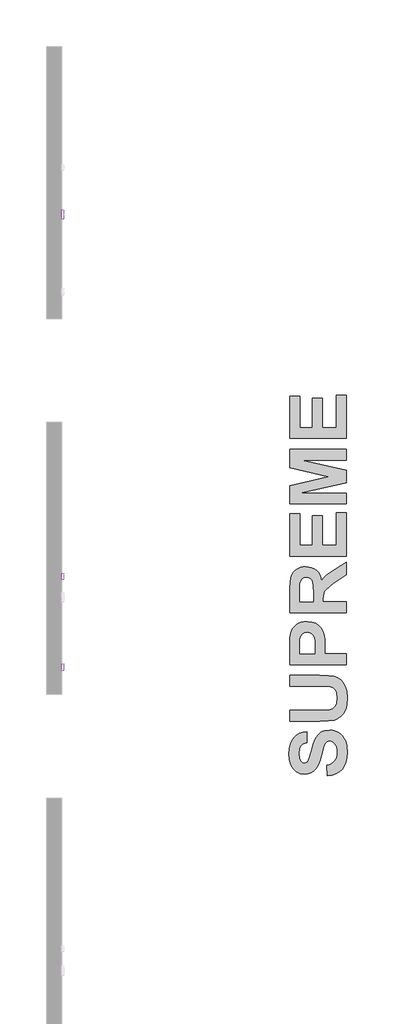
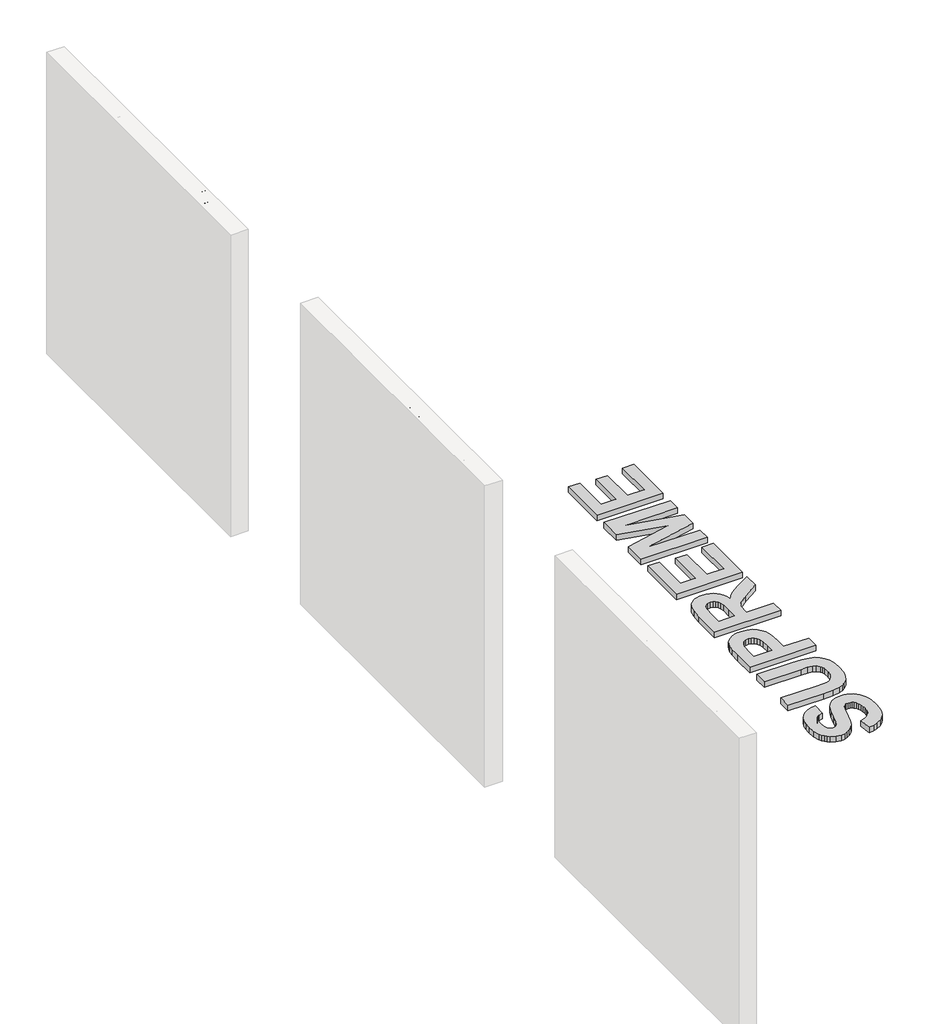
# One storey, part 15 of 17: 4 proxies.
"""IFC4 building model written with IfcOpenShell, lengths in millimetres."""

from ifc_helpers import new_model, si_unit, frame, origin, origin_with_axes, place, context, project, spatial, polyline, outline, extrude, element, save

model = new_model("IFC4")

# Units and contexts
model_context = context("Model", 3, world=origin())
ifc_project = project(units=[si_unit("LENGTHUNIT", "METRE", prefix="MILLI")], contexts=[model_context])

# Site, building, storey
site = spatial("IfcSite", under=ifc_project)
building = spatial("IfcBuilding", under=site)
storey = spatial("IfcBuildingStorey", under=building, Name="PORTOBELLO - SHOWROOM", Elevation=0.0)

# Proxies
placement = place(None, origin())
element("IfcBuildingElementProxy", 1, Name="10mm Arial", ObjectType="10mm Arial", at=placement, inside=storey, context=model_context, shape_type="SweptSolid", body=[
    extrude(outline(polyline([(13150.0729325, 2518.4745677), (13150.0729325, 2618.9308778), (13171.6062919, 2618.9308778), (13192.2076837, 2548.1258565), (13196.3770129, 2533.3370003), (13200.8651733, 2549.3521298), (13221.0741576, 2618.9308778), (13242.6810934, 2618.9308778), (13242.6810934, 2518.4745677), (13230.1240546, 2518.4745677), (13230.1240546, 2606.373839), (13204.8873498, 2518.4745677), (13187.8912016, 2518.4745677), (13162.6299713, 2606.373839), (13162.6299713, 2518.4745677), (13150.0729325, 2518.4745677)])), frame((-7622.2794626, 0.0, 0.0), z_axis=(1.0, 0.0, 0.0), x_axis=(0.0, 1.0, 0.0)), (0.0, 0.0, 1.0), 20.0),
    extrude(outline(polyline([(13259.9470217, 2555.360869), (13262.6632171, 2573.1479635), (13270.8118033, 2585.64982), (13280.8795072, 2591.7750552), (13292.9337739, 2593.8168003), (13306.1254092, 2591.3305311), (13316.6621626, 2583.8717237), (13323.5691471, 2572.0289891), (13325.8714752, 2556.3909386), (13321.8002478, 2534.0482388), (13309.9421849, 2521.4053609), (13292.9337739, 2516.9049378), (13279.5827232, 2519.3820099), (13269.0582325, 2526.8132262), (13262.2248244, 2538.9042811), (13259.9470217, 2555.360869)]), holes=[polyline([(13272.5040605, 2555.3853945), (13273.9571944, 2544.0209065), (13278.316596, 2535.924437), (13284.8771582, 2531.0775917), (13292.9337739, 2529.4619766), (13300.9536014, 2531.0867887), (13307.501901, 2535.9612252), (13311.8613026, 2544.1649937), (13313.3144365, 2555.777802), (13311.8521055, 2566.8111961), (13307.4651128, 2574.7973011), (13300.9076162, 2579.6441464), (13292.9337739, 2581.2597615), (13284.8771582, 2579.6502778), (13278.316596, 2574.8218266), (13273.9571944, 2566.7437511), (13272.5040605, 2555.3853945)])]), frame((-7622.2794626, 0.0, 0.0), z_axis=(1.0, 0.0, 0.0), x_axis=(0.0, 1.0, 0.0)), (0.0, 0.0, 1.0), 20.0),
    extrude(outline(polyline([(13387.0870392, 2518.4745677), (13387.0870392, 2531.1542338), (13377.2523272, 2520.4672618), (13364.4255083, 2516.9049378), (13352.6164963, 2519.4065354), (13344.4740415, 2525.6850548), (13340.7339079, 2534.9311556), (13339.9981439, 2546.6052776), (13339.9981439, 2592.2471704), (13352.5551826, 2592.2471704), (13352.5551826, 2552.515915), (13353.3154721, 2539.7136215), (13358.281879, 2532.1965661), (13367.6383444, 2529.4619766), (13378.1229813, 2532.2578797), (13385.0514255, 2539.873037), (13387.0870392, 2553.8648156), (13387.0870392, 2592.2471704), (13399.644078, 2592.2471704), (13399.644078, 2518.4745677), (13387.0870392, 2518.4745677)])), frame((-7622.2794626, 0.0, 0.0), z_axis=(1.0, 0.0, 0.0), x_axis=(0.0, 1.0, 0.0)), (0.0, 0.0, 1.0), 20.0),
    extrude(outline(polyline([(13412.2011168, 2540.4493855), (13424.7581555, 2542.0190154), (13430.5706911, 2532.6993381), (13443.8880193, 2529.4619766), (13456.6903127, 2532.429558), (13460.859642, 2539.3947905), (13456.6657873, 2545.0356477), (13443.7408665, 2548.6163658), (13424.8317319, 2554.7599951), (13416.5789125, 2561.933694), (13413.7707466, 2572.0627116), (13416.0270895, 2581.419177), (13422.1829816, 2588.5683505), (13430.1660209, 2592.2839586), (13440.9694888, 2593.8168003), (13456.2488543, 2591.3519909), (13465.960939, 2584.6810641), (13470.2774211, 2573.4116123), (13457.7203823, 2571.8419824), (13452.99923, 2578.7704267), (13441.9505075, 2581.2597615), (13429.9330289, 2578.8807913), (13426.3277854, 2573.3380359), (13427.8238388, 2569.6837414), (13432.5082029, 2566.9123637), (13443.3239336, 2564.2390879), (13461.7548215, 2558.3284505), (13470.3142093, 2551.6329982), (13473.4166808, 2540.7191656), (13469.774649, 2528.7016871), (13459.2654867, 2519.9828838), (13443.716341, 2516.9049378), (13431.055069, 2518.3887285), (13421.8150996, 2522.8401007), (13415.6469448, 2530.2100033), (13412.2011168, 2540.4493855)])), frame((-7622.2794626, 0.0, 0.0), z_axis=(1.0, 0.0, 0.0), x_axis=(0.0, 1.0, 0.0)), (0.0, 0.0, 1.0), 20.0),
    extrude(outline(polyline([(13482.8344599, 2540.4493855), (13495.3914986, 2542.0190154), (13501.2040341, 2532.6993381), (13514.5213624, 2529.4619766), (13527.3236558, 2532.429558), (13531.4929851, 2539.3947905), (13527.2991303, 2545.0356477), (13514.3742096, 2548.6163658), (13495.465075, 2554.7599951), (13487.2122556, 2561.933694), (13484.4040897, 2572.0627116), (13486.6604326, 2581.419177), (13492.8163247, 2588.5683505), (13500.799364, 2592.2839586), (13511.6028319, 2593.8168003), (13526.8821974, 2591.3519909), (13536.5942821, 2584.6810641), (13540.9107642, 2573.4116123), (13528.3537254, 2571.8419824), (13523.6325731, 2578.7704267), (13512.5838505, 2581.2597615), (13500.566372, 2578.8807913), (13496.9611285, 2573.3380359), (13498.4571819, 2569.6837414), (13503.141546, 2566.9123637), (13513.9572766, 2564.2390879), (13532.3881646, 2558.3284505), (13540.9475524, 2551.6329982), (13544.0500239, 2540.7191656), (13540.4079921, 2528.7016871), (13529.8988298, 2519.9828838), (13514.3496841, 2516.9049378), (13501.6884121, 2518.3887285), (13492.4484427, 2522.8401007), (13486.2802879, 2530.2100033), (13482.8344599, 2540.4493855)])), frame((-7622.2794626, 0.0, 0.0), z_axis=(1.0, 0.0, 0.0), x_axis=(0.0, 1.0, 0.0)), (0.0, 0.0, 1.0), 20.0),
    extrude(outline(polyline([(13609.8273246, 2540.4493855), (13622.1391087, 2538.8797557), (13617.703065, 2529.602998), (13610.6244022, 2522.6684224), (13601.0625361, 2518.345809), (13589.1768819, 2516.9049378), (13574.443208, 2519.391207), (13563.1063112, 2526.8500144), (13555.87743, 2538.7969822), (13553.4678029, 2554.7477324), (13555.9019555, 2571.2349771), (13563.2044131, 2583.5651553), (13574.3880257, 2591.253889), (13588.4656434, 2593.8168003), (13602.1048684, 2591.2600204), (13613.0033725, 2583.5896808), (13620.1494802, 2571.2840281), (13622.5315162, 2554.8213088), (13622.4579398, 2551.4367944), (13566.0248417, 2551.4367944), (13568.1984112, 2542.0374095), (13573.2475915, 2535.1273593), (13580.5347207, 2530.8783223), (13589.4221366, 2529.4619766), (13601.7339207, 2532.0862015), (13609.8273246, 2540.4493855)]), holes=[polyline([(13566.0248417, 2563.9938332), (13609.9744774, 2563.9938332), (13604.9467568, 2575.3736496), (13597.6259051, 2579.7882335), (13588.4165925, 2581.2597615), (13572.9532859, 2576.5631347), (13568.0880466, 2571.0724959), (13566.0248417, 2563.9938332)])]), frame((-7622.2794626, 0.0, 0.0), z_axis=(1.0, 0.0, 0.0), x_axis=(0.0, 1.0, 0.0)), (0.0, 0.0, 1.0), 20.0),
    extrude(outline(polyline([(13671.1900414, 2553.0064243), (13683.7470802, 2553.0064243), (13687.7937821, 2540.4371228), (13697.677545, 2532.4908717), (13712.7361814, 2529.4619766), (13725.8573059, 2531.7551077), (13734.3308545, 2538.0581525), (13737.1144949, 2546.4826502), (13735.0298303, 2554.3185367), (13726.494968, 2560.0207077), (13708.2112328, 2564.8154363), (13688.5295461, 2571.0081166), (13677.8487055, 2580.3523193), (13674.3293011, 2592.8357816), (13678.6825714, 2607.0482894), (13691.3990257, 2617.0792051), (13710.0138546, 2620.5005077), (13729.8794823, 2616.9197896), (13743.1232342, 2606.3983645), (13748.1019038, 2590.6775406), (13735.5448651, 2590.6775406), (13733.2394712, 2598.1700706), (13728.4324798, 2603.5779359), (13710.5043639, 2607.9434689), (13692.5271971, 2603.6269868), (13686.8863398, 2593.2036636), (13690.8839909, 2584.4971231), (13711.3872807, 2577.4828397), (13733.6073532, 2571.1797948), (13745.7597218, 2561.0017263), (13749.6715337, 2546.8014813), (13745.1711106, 2531.7796332), (13732.2216644, 2520.8167497), (13713.2266907, 2516.9049378), (13690.7981517, 2521.123318), (13676.6101694, 2533.8275096), (13671.1900414, 2553.0064243)])), frame((-7622.2794626, 0.0, 0.0), z_axis=(1.0, 0.0, 0.0), x_axis=(0.0, 1.0, 0.0)), (0.0, 0.0, 1.0), 20.0),
    extrude(outline(polyline([(13814.0263574, 2518.4745677), (13814.0263574, 2531.1542338), (13804.1916454, 2520.4672618), (13791.3648265, 2516.9049378), (13779.5558144, 2519.4065354), (13771.4133596, 2525.6850548), (13767.673226, 2534.9311556), (13766.937462, 2546.6052776), (13766.937462, 2592.2471704), (13779.4945008, 2592.2471704), (13779.4945008, 2552.515915), (13780.2547902, 2539.7136215), (13785.2211972, 2532.1965661), (13794.5776626, 2529.4619766), (13805.0622994, 2532.2578797), (13811.9907437, 2539.873037), (13814.0263574, 2553.8648156), (13814.0263574, 2592.2471704), (13826.5833961, 2592.2471704), (13826.5833961, 2518.4745677), (13814.0263574, 2518.4745677)])), frame((-7622.2794626, 0.0, 0.0), z_axis=(1.0, 0.0, 0.0), x_axis=(0.0, 1.0, 0.0)), (0.0, 0.0, 1.0), 20.0),
    extrude(outline(polyline([(13843.8493245, 2490.2212304), (13843.8493245, 2592.2471704), (13856.4063632, 2592.2471704), (13856.4063632, 2579.9353863), (13865.0883783, 2590.3464468), (13876.8115512, 2593.8168003), (13892.7285789, 2588.9607579), (13903.1273766, 2575.2755477), (13906.6345183, 2555.9249548), (13902.6736555, 2535.5810804), (13891.1712118, 2521.724192), (13875.2909723, 2516.9049378), (13864.3648771, 2520.1300366), (13856.4063632, 2528.2847542), (13856.4063632, 2490.2212304), (13843.8493245, 2490.2212304)]), holes=[polyline([(13856.4063632, 2554.7722579), (13857.7644609, 2543.5150688), (13861.838754, 2535.6423941), (13867.850559, 2531.007081), (13875.0211922, 2529.4619766), (13882.3083214, 2531.0622633), (13888.4734105, 2535.8631233), (13892.6764623, 2544.0239722), (13894.0774795, 2555.7042256), (13892.7101848, 2566.900101), (13888.6083005, 2574.8831403), (13882.6056926, 2579.6656062), (13875.536227, 2581.2597615), (13868.4391701, 2579.5644386), (13862.206636, 2574.4784701), (13857.8564314, 2566.1612713), (13856.4063632, 2554.7722579)])]), frame((-7622.2794626, 0.0, 0.0), z_axis=(1.0, 0.0, 0.0), x_axis=(0.0, 1.0, 0.0)), (0.0, 0.0, 1.0), 20.0),
    extrude(outline(polyline([(13920.7611869, 2518.4745677), (13920.7611869, 2592.2471704), (13931.7485958, 2592.2471704), (13931.7485958, 2581.3333379), (13939.5476941, 2591.3887791), (13947.3958434, 2593.8168003), (13960.0019331, 2589.9417766), (13955.8080783, 2578.6845875), (13946.9789104, 2581.2597615), (13939.8787879, 2578.7826894), (13935.3538394, 2571.9155588), (13933.3182257, 2557.24933), (13933.3182257, 2518.4745677), (13920.7611869, 2518.4745677)])), frame((-7622.2794626, 0.0, 0.0), z_axis=(1.0, 0.0, 0.0), x_axis=(0.0, 1.0, 0.0)), (0.0, 0.0, 1.0), 20.0),
    extrude(outline(polyline([(14019.5007144, 2540.4493855), (14031.8124985, 2538.8797557), (14027.3764548, 2529.602998), (14020.2977921, 2522.6684224), (14010.7359259, 2518.345809), (13998.8502718, 2516.9049378), (13984.1165978, 2519.391207), (13972.779701, 2526.8500144), (13965.5508198, 2538.7969822), (13963.1411928, 2554.7477324), (13965.5753453, 2571.2349771), (13972.8778029, 2583.5651553), (13984.0614155, 2591.253889), (13998.1390332, 2593.8168003), (14011.7782582, 2591.2600204), (14022.6767623, 2583.5896808), (14029.8228701, 2571.2840281), (14032.204906, 2554.8213088), (14032.1313296, 2551.4367944), (13975.6982315, 2551.4367944), (13977.871801, 2542.0374095), (13982.9209814, 2535.1273593), (13990.2081106, 2530.8783223), (13999.0955264, 2529.4619766), (14011.4073105, 2532.0862015), (14019.5007144, 2540.4493855)]), holes=[polyline([(13975.6982315, 2563.9938332), (14019.6478672, 2563.9938332), (14014.6201466, 2575.3736496), (14007.2992949, 2579.7882335), (13998.0899823, 2581.2597615), (13982.6266758, 2576.5631347), (13977.7614364, 2571.0724959), (13975.6982315, 2563.9938332)])]), frame((-7622.2794626, 0.0, 0.0), z_axis=(1.0, 0.0, 0.0), x_axis=(0.0, 1.0, 0.0)), (0.0, 0.0, 1.0), 20.0),
    extrude(outline(polyline([(14044.7619448, 2518.4745677), (14044.7619448, 2592.2471704), (14057.3189835, 2592.2471704), (14057.3189835, 2580.1070646), (14065.9519477, 2590.0521412), (14078.2392063, 2593.8168003), (14090.8207705, 2589.9785648), (14097.7369521, 2579.2241478), (14107.5348759, 2590.1686372), (14119.9079736, 2593.8168003), (14129.3472125, 2592.299287), (14136.3277734, 2587.7467474), (14140.6411897, 2580.0365539), (14142.0789952, 2569.0460793), (14142.0789952, 2518.4745677), (14129.5219564, 2518.4745677), (14129.5219564, 2563.6504767), (14128.3569968, 2574.1351135), (14124.1386166, 2579.2977242), (14116.9649177, 2581.2597615), (14104.6163454, 2576.2320409), (14100.9283284, 2569.6898728), (14099.6989894, 2560.1188095), (14099.6989894, 2518.4745677), (14087.1419506, 2518.4745677), (14087.1419506, 2565.0484283), (14084.2356828, 2577.2130596), (14074.7075392, 2581.2597615), (14065.4123874, 2578.5619602), (14059.2319699, 2570.66476), (14057.3189835, 2555.6797001), (14057.3189835, 2518.4745677), (14044.7619448, 2518.4745677)])), frame((-7622.2794626, 0.0, 0.0), z_axis=(1.0, 0.0, 0.0), x_axis=(0.0, 1.0, 0.0)), (0.0, 0.0, 1.0), 20.0),
    extrude(outline(polyline([(14212.5651855, 2540.4493855), (14224.8769696, 2538.8797557), (14220.4409259, 2529.602998), (14213.3622631, 2522.6684224), (14203.800397, 2518.345809), (14191.9147428, 2516.9049378), (14177.1810689, 2519.391207), (14165.8441721, 2526.8500144), (14158.6152909, 2538.7969822), (14156.2056638, 2554.7477324), (14158.6398164, 2571.2349771), (14165.942274, 2583.5651553), (14177.1258866, 2591.253889), (14191.2035043, 2593.8168003), (14204.8427293, 2591.2600204), (14215.7412334, 2583.5896808), (14222.8873411, 2571.2840281), (14225.2693771, 2554.8213088), (14225.1958007, 2551.4367944), (14168.7627026, 2551.4367944), (14170.936272, 2542.0374095), (14175.9854524, 2535.1273593), (14183.2725816, 2530.8783223), (14192.1599975, 2529.4619766), (14204.4717816, 2532.0862015), (14212.5651855, 2540.4493855)]), holes=[polyline([(14168.7627026, 2563.9938332), (14212.7123383, 2563.9938332), (14207.6846177, 2575.3736496), (14200.363766, 2579.7882335), (14191.1544534, 2581.2597615), (14175.6911468, 2576.5631347), (14170.8259075, 2571.0724959), (14168.7627026, 2563.9938332)])]), frame((-7622.2794626, 0.0, 0.0), z_axis=(1.0, 0.0, 0.0), x_axis=(0.0, 1.0, 0.0)), (0.0, 0.0, 1.0), 20.0),
    extrude(outline(polyline([(14278.6367918, 2518.4745677), (14278.6367918, 2618.9308778), (14300.1701513, 2618.9308778), (14320.771543, 2548.1258565), (14324.9408723, 2533.3370003), (14329.4290326, 2549.3521298), (14349.6380169, 2618.9308778), (14371.2449527, 2618.9308778), (14371.2449527, 2518.4745677), (14358.687914, 2518.4745677), (14358.687914, 2606.373839), (14333.4512091, 2518.4745677), (14316.4550609, 2518.4745677), (14291.1938306, 2606.373839), (14291.1938306, 2518.4745677), (14278.6367918, 2518.4745677)])), frame((-7622.2794626, 0.0, 0.0), z_axis=(1.0, 0.0, 0.0), x_axis=(0.0, 1.0, 0.0)), (0.0, 0.0, 1.0), 20.0),
    extrude(outline(polyline([(-7602.2794626, 14404.2071795), (-7602.2794626, 14391.6501407), (-7622.2794626, 14391.6501407), (-7622.2794626, 14404.2071795), (-7602.2794626, 14404.2071795)])), frame((0.0, 0.0, 2606.373839), z_axis=(0.0, 0.0, 1.0), x_axis=(1.0, 0.0, 0.0)), (0.0, 0.0, 1.0), 12.5570388),
    extrude(outline(polyline([(-7602.2794626, 14404.2071795), (-7602.2794626, 14391.6501407), (-7622.2794626, 14391.6501407), (-7622.2794626, 14404.2071795), (-7602.2794626, 14404.2071795)])), frame((0.0, 0.0, 2518.4745677), z_axis=(0.0, 0.0, 1.0), x_axis=(1.0, 0.0, 0.0)), (0.0, 0.0, 1.0), 73.7726028),
    extrude(outline(polyline([(14415.1945884, 2518.4745677), (14442.0254486, 2555.5815982), (14416.7642183, 2592.2471704), (14431.8228546, 2592.2471704), (14444.0120114, 2574.5643092), (14449.726445, 2566.2501761), (14454.6805892, 2573.0682557), (14468.5620032, 2592.2471704), (14483.6696905, 2592.2471704), (14457.1331359, 2555.5570728), (14482.6886718, 2518.4745677), (14467.60551, 2518.4745677), (14452.2035171, 2540.792742), (14449.407614, 2544.8884949), (14430.3022757, 2518.4745677), (14415.1945884, 2518.4745677)])), frame((-7622.2794626, 0.0, 0.0), z_axis=(1.0, 0.0, 0.0), x_axis=(0.0, 1.0, 0.0)), (0.0, 0.0, 1.0), 20.0),
])
element("IfcBuildingElementProxy", 2, Name="10mm Arial", ObjectType="10mm Arial", at=placement, inside=storey, context=model_context, shape_type="SweptSolid", body=[
    extrude(outline(polyline([(9462.4529383, 2393.4745677), (9449.8958996, 2393.4745677), (9449.8958996, 2471.7598562), (9438.0010484, 2463.2863076), (9424.781822, 2456.9464746), (9424.781822, 2468.8168003), (9443.1881845, 2480.5644987), (9454.3595344, 2493.9308778), (9462.4529383, 2493.9308778), (9462.4529383, 2393.4745677)])), frame((-7622.2794626, 0.0, 0.0), z_axis=(1.0, 0.0, 0.0), x_axis=(0.0, 1.0, 0.0)), (0.0, 0.0, 1.0), 20.0),
    extrude(outline(polyline([(9492.2759054, 2442.8933823), (9495.9669881, 2471.7966444), (9506.9298715, 2488.4616988), (9525.2381322, 2493.9308778), (9539.904361, 2490.6935163), (9550.0333786, 2481.3615763), (9555.9194906, 2466.4991437), (9558.2003589, 2442.8933823), (9554.5460645, 2414.1127476), (9543.6199692, 2397.410905), (9535.3886096, 2393.2814296), (9525.2381322, 2391.9049378), (9512.1905841, 2394.2961708), (9502.2822957, 2401.4698697), (9494.777503, 2418.4598865), (9492.2759054, 2442.8933823)]), holes=[polyline([(9504.8329442, 2442.9179078), (9506.3044722, 2423.1657104), (9510.7190561, 2411.7337774), (9517.2918811, 2406.2799268), (9525.2381322, 2404.4619766), (9533.1843833, 2406.2860581), (9539.7572082, 2411.7583028), (9544.1717922, 2423.1963672), (9545.6433202, 2442.9179078), (9544.2208431, 2462.2255812), (9539.953412, 2473.746419), (9533.3928497, 2479.466984), (9525.0909794, 2481.373839), (9517.2305674, 2479.6938446), (9510.9152598, 2474.6538613), (9506.3535231, 2462.4156536), (9504.8329442, 2442.9179078)])]), frame((-7622.2794626, 0.0, 0.0), z_axis=(1.0, 0.0, 0.0), x_axis=(0.0, 1.0, 0.0)), (0.0, 0.0, 1.0), 20.0),
    extrude(outline(polyline([(9564.4788783, 2393.4745677), (9591.3097385, 2430.5815982), (9566.0485082, 2467.2471704), (9581.1071445, 2467.2471704), (9593.2963013, 2449.5643092), (9599.0107349, 2441.2501761), (9603.9648791, 2448.0682557), (9617.8462931, 2467.2471704), (9632.9539804, 2467.2471704), (9606.4174258, 2430.5570728), (9631.9729617, 2393.4745677), (9616.8897999, 2393.4745677), (9601.487807, 2415.792742), (9598.6919039, 2419.8884949), (9579.5865656, 2393.4745677), (9564.4788783, 2393.4745677)])), frame((-7622.2794626, 0.0, 0.0), z_axis=(1.0, 0.0, 0.0), x_axis=(0.0, 1.0, 0.0)), (0.0, 0.0, 1.0), 20.0),
    extrude(outline(polyline([(9704.1759346, 2406.0316064), (9704.1759346, 2393.4745677), (9638.2514811, 2393.4745677), (9639.6003817, 2402.1320573), (9647.2400645, 2415.4616482), (9662.9731512, 2430.0175125), (9684.6414007, 2450.9377353), (9690.049266, 2465.1625058), (9684.9357063, 2476.6772122), (9671.5815899, 2481.373839), (9657.6633877, 2476.7875768), (9652.3781497, 2464.1079107), (9639.8211109, 2465.6775406), (9642.8653344, 2477.8237778), (9649.4473565, 2486.6958652), (9659.2238205, 2492.1221247), (9671.85137, 2493.9308778), (9684.57089, 2491.9197896), (9694.3289599, 2485.8865249), (9700.5369686, 2476.873416), (9702.6063048, 2465.9227952), (9700.3744873, 2454.0156813), (9692.9555338, 2441.7038972), (9674.9661042, 2424.4992826), (9660.5206045, 2412.4204904), (9654.8552218, 2406.0316064), (9704.1759346, 2406.0316064)])), frame((-7622.2794626, 0.0, 0.0), z_axis=(1.0, 0.0, 0.0), x_axis=(0.0, 1.0, 0.0)), (0.0, 0.0, 1.0), 20.0),
    extrude(outline(polyline([(9716.7329734, 2442.8933823), (9720.4240561, 2471.7966444), (9731.3869395, 2488.4616988), (9749.6952002, 2493.9308778), (9764.361429, 2490.6935163), (9774.4904466, 2481.3615763), (9780.3765586, 2466.4991437), (9782.6574269, 2442.8933823), (9779.0031324, 2414.1127476), (9768.0770372, 2397.410905), (9759.8456775, 2393.2814296), (9749.6952002, 2391.9049378), (9736.6476521, 2394.2961708), (9726.7393637, 2401.4698697), (9719.234571, 2418.4598865), (9716.7329734, 2442.8933823)]), holes=[polyline([(9729.2900122, 2442.9179078), (9730.7615401, 2423.1657104), (9735.1761241, 2411.7337774), (9741.7489491, 2406.2799268), (9749.6952002, 2404.4619766), (9757.6414513, 2406.2860581), (9764.2142762, 2411.7583028), (9768.6288602, 2423.1963672), (9770.1003882, 2442.9179078), (9768.6779111, 2462.2255812), (9764.41048, 2473.746419), (9757.8499177, 2479.466984), (9749.5480474, 2481.373839), (9741.6876354, 2479.6938446), (9735.3723278, 2474.6538613), (9730.8105911, 2462.4156536), (9729.2900122, 2442.9179078)])]), frame((-7622.2794626, 0.0, 0.0), z_axis=(1.0, 0.0, 0.0), x_axis=(0.0, 1.0, 0.0)), (0.0, 0.0, 1.0), 20.0),
])
element("IfcBuildingElementProxy", 3, Name="10mm Arial Narrow", ObjectType="10mm Arial Narrow", at=placement, inside=storey, context=model_context, shape_type="SweptSolid", body=[
    extrude(outline(polyline([(10469.2528462, 2518.4745677), (10469.2528462, 2619.1931714), (10500.5497308, 2619.1931714), (10516.8454323, 2617.3148507), (10528.3184185, 2607.8344075), (10532.6080969, 2590.8152987), (10530.8217885, 2578.7394731), (10525.4628633, 2569.1130794), (10515.7190745, 2562.811821), (10500.7781752, 2560.7114015), (10478.9998078, 2560.7114015), (10478.9998078, 2518.4745677), (10469.2528462, 2518.4745677)]), holes=[polyline([(10478.9998078, 2572.0828568), (10501.9711627, 2572.0828568), (10517.8353581, 2576.613671), (10522.8611352, 2590.2822617), (10520.3863208, 2600.4480381), (10514.4086919, 2606.247988), (10501.7427183, 2607.8217162), (10478.9998078, 2607.8217162), (10478.9998078, 2572.0828568)])]), frame((-7622.2794626, 0.0, 0.0), z_axis=(1.0, 0.0, 0.0), x_axis=(0.0, 1.0, 0.0)), (0.0, 0.0, 1.0), 20.0),
    extrude(outline(polyline([(10540.7305649, 2555.0256739), (10542.6850338, 2571.6164494), (10548.5484404, 2583.5685342), (10557.4070071, 2590.7930888), (10568.3469563, 2593.2012737), (10579.1599919, 2590.7930888), (10588.0439413, 2583.5685342), (10593.9834961, 2571.8068198), (10595.9633476, 2555.7871552), (10594.0183973, 2538.6252687), (10588.1835462, 2526.4828135), (10579.334498, 2519.2582589), (10568.3469563, 2516.8500741), (10557.4863281, 2519.2646046), (10548.6118972, 2526.5081962), (10542.700898, 2538.4666267), (10540.7305649, 2555.0256739)]), holes=[polyline([(10550.4775266, 2555.0510566), (10551.7815635, 2542.4993052), (10555.693674, 2533.6280471), (10561.5348708, 2528.3547886), (10568.6261661, 2526.5970357), (10575.3462393, 2528.3706528), (10581.0383126, 2533.6915039), (10584.9218676, 2542.5786262), (10586.216386, 2555.0510566), (10584.9123491, 2567.5647339), (10581.0002385, 2576.4233006), (10575.1590418, 2581.6965592), (10568.0677465, 2583.454312), (10561.3000807, 2581.6870407), (10555.6175259, 2576.3852265), (10551.7625264, 2567.5171413), (10550.4775266, 2555.0510566)])]), frame((-7622.2794626, 0.0, 0.0), z_axis=(1.0, 0.0, 0.0), x_axis=(0.0, 1.0, 0.0)), (0.0, 0.0, 1.0), 20.0),
    extrude(outline(polyline([(10667.4410664, 2526.5970357), (10669.06556, 2516.8500741), (10661.7045734, 2516.8500741), (10653.4298091, 2518.9695306), (10649.1147479, 2524.7694804), (10647.9471431, 2539.4153056), (10647.9471431, 2581.8298184), (10639.8246751, 2581.8298184), (10639.8246751, 2585.0788056), (10638.2001815, 2580.2053248), (10630.6361331, 2581.8298184), (10624.5569734, 2579.5073002), (10620.6861098, 2573.0220171), (10618.7062582, 2557.6147106), (10618.7062582, 2518.4745677), (10608.9592965, 2518.4745677), (10608.9592965, 2591.5767801), (10618.7062582, 2591.5767801), (10618.7062582, 2581.8805838), (10624.9504055, 2590.967595), (10631.3468491, 2593.2012737), (10639.8246751, 2591.5767801), (10647.9471431, 2591.5767801), (10647.9471431, 2607.8217162), (10657.6941048, 2615.9441842), (10657.6941048, 2591.5767801), (10667.4410664, 2591.5767801), (10667.4410664, 2581.8298184), (10657.6941048, 2581.8298184), (10657.6941048, 2537.1816269), (10658.557117, 2529.1860724), (10663.1767707, 2526.5970357), (10667.4410664, 2526.5970357)])), frame((-7622.2794626, 0.0, 0.0), z_axis=(1.0, 0.0, 0.0), x_axis=(0.0, 1.0, 0.0)), (0.0, 0.0, 1.0), 20.0),
    extrude(outline(polyline([(10673.9390409, 2555.0256739), (10675.8935097, 2571.6164494), (10681.7569164, 2583.5685342), (10690.6154831, 2590.7930888), (10701.5554322, 2593.2012737), (10712.3684678, 2590.7930888), (10721.2524172, 2583.5685342), (10727.191972, 2571.8068198), (10729.1718236, 2555.7871552), (10727.2268732, 2538.6252687), (10721.3920222, 2526.4828135), (10712.542974, 2519.2582589), (10701.5554322, 2516.8500741), (10690.6948041, 2519.2646046), (10681.8203731, 2526.5081962), (10675.9093739, 2538.4666267), (10673.9390409, 2555.0256739)]), holes=[polyline([(10683.6860025, 2555.0510566), (10684.9900394, 2542.4993052), (10688.90215, 2533.6280471), (10694.7433467, 2528.3547886), (10701.8346421, 2526.5970357), (10708.5547152, 2528.3706528), (10714.2467885, 2533.6915039), (10718.1303436, 2542.5786262), (10719.4248619, 2555.0510566), (10718.1208251, 2567.5647339), (10714.2087145, 2576.4233006), (10708.3675177, 2581.6965592), (10701.2762224, 2583.454312), (10694.5085566, 2581.6870407), (10688.8260018, 2576.3852265), (10684.9710024, 2567.5171413), (10683.6860025, 2555.0510566)])]), frame((-7622.2794626, 0.0, 0.0), z_axis=(1.0, 0.0, 0.0), x_axis=(0.0, 1.0, 0.0)), (0.0, 0.0, 1.0), 20.0),
    extrude(outline(polyline([(10751.9147341, 2518.4745677), (10742.1677724, 2518.4745677), (10742.1677724, 2619.1931714), (10751.9147341, 2619.1931714), (10751.9147341, 2583.7842873), (10759.3137948, 2590.8660641), (10768.5150282, 2593.2012737), (10781.3967548, 2589.0004347), (10790.6741363, 2576.2710043), (10794.1515679, 2555.5840935), (10792.2193089, 2539.1297501), (10786.4225319, 2526.927011), (10778.0494096, 2519.3693083), (10768.3881146, 2516.8500741), (10759.0472764, 2519.4644935), (10751.9147341, 2527.2316035), (10751.9147341, 2518.4745677)]), holes=[polyline([(10751.9147341, 2555.5840935), (10753.9961165, 2538.3365403), (10759.8849059, 2529.6048872), (10768.3373492, 2526.5970357), (10774.2800768, 2528.3865169), (10779.5184341, 2533.7549607), (10784.4046063, 2555.1779701), (10779.6961131, 2576.613671), (10774.4514101, 2581.7441518), (10768.1342875, 2583.454312), (10762.1566587, 2581.6648308), (10756.8643631, 2576.2963871), (10751.9147341, 2555.5840935)])]), frame((-7622.2794626, 0.0, 0.0), z_axis=(1.0, 0.0, 0.0), x_axis=(0.0, 1.0, 0.0)), (0.0, 0.0, 1.0), 20.0),
    extrude(outline(polyline([(10846.1353634, 2541.2174782), (10855.8823251, 2539.5929846), (10852.1827947, 2529.706418), (10846.3638078, 2522.5865671), (10838.6601545, 2518.2841973), (10829.3066249, 2516.8500741), (10817.7130709, 2519.2646046), (10808.5689487, 2526.5081962), (10802.629394, 2538.3143304), (10800.6495424, 2554.4164888), (10802.6389125, 2571.0834124), (10808.6070228, 2583.2639417), (10817.6210586, 2590.7169407), (10828.7482053, 2593.2012737), (10839.4311544, 2590.8026073), (10848.1786718, 2583.6066083), (10854.0135229, 2571.8671037), (10855.9584732, 2555.8379207), (10855.8823251, 2552.5889335), (10810.396504, 2552.5889335), (10816.3995156, 2533.1457756), (10822.3295518, 2528.2342207), (10829.4335385, 2526.5970357), (10839.6120063, 2530.2521463), (10846.1353634, 2541.2174782)]), holes=[polyline([(10811.0564546, 2562.3358951), (10846.1353634, 2562.3358951), (10841.8710677, 2576.6009796), (10836.0457351, 2581.7409789), (10828.8243534, 2583.454312), (10816.6152686, 2577.7432017), (10811.0564546, 2562.3358951)])]), frame((-7622.2794626, 0.0, 0.0), z_axis=(1.0, 0.0, 0.0), x_axis=(0.0, 1.0, 0.0)), (0.0, 0.0, 1.0), 20.0),
    extrude(outline(polyline([(-7602.2794626, 10878.6252356), (-7602.2794626, 10868.8782739), (-7622.2794626, 10868.8782739), (-7622.2794626, 10878.6252356), (-7602.2794626, 10878.6252356)])), frame((0.0, 0.0, 2518.4745677), z_axis=(0.0, 0.0, 1.0), x_axis=(1.0, 0.0, 0.0)), (0.0, 0.0, 1.0), 100.7186038),
    extrude(outline(polyline([(-7602.2794626, 10904.6171333), (-7602.2794626, 10894.8701717), (-7622.2794626, 10894.8701717), (-7622.2794626, 10904.6171333), (-7602.2794626, 10904.6171333)])), frame((0.0, 0.0, 2518.4745677), z_axis=(0.0, 0.0, 1.0), x_axis=(1.0, 0.0, 0.0)), (0.0, 0.0, 1.0), 100.7186038),
    extrude(outline(polyline([(10915.9885886, 2555.0256739), (10917.9430575, 2571.6164494), (10923.8064641, 2583.5685342), (10932.6650308, 2590.7930888), (10943.60498, 2593.2012737), (10954.4180155, 2590.7930888), (10963.301965, 2583.5685342), (10969.2415197, 2571.8068198), (10971.2213713, 2555.7871552), (10969.276421, 2538.6252687), (10963.4415699, 2526.4828135), (10954.5925217, 2519.2582589), (10943.60498, 2516.8500741), (10932.7443518, 2519.2646046), (10923.8699209, 2526.5081962), (10917.9589217, 2538.4666267), (10915.9885886, 2555.0256739)]), holes=[polyline([(10925.7355503, 2555.0510566), (10927.0395871, 2542.4993052), (10930.9516977, 2533.6280471), (10936.7928944, 2528.3547886), (10943.8841898, 2526.5970357), (10950.604263, 2528.3706528), (10956.2963363, 2533.6915039), (10960.1798913, 2542.5786262), (10961.4744097, 2555.0510566), (10960.1703728, 2567.5647339), (10956.2582622, 2576.4233006), (10950.4170655, 2581.6965592), (10943.3257701, 2583.454312), (10936.5581044, 2581.6870407), (10930.8755496, 2576.3852265), (10927.0205501, 2567.5171413), (10925.7355503, 2555.0510566)])]), frame((-7622.2794626, 0.0, 0.0), z_axis=(1.0, 0.0, 0.0), x_axis=(0.0, 1.0, 0.0)), (0.0, 0.0, 1.0), 20.0),
])
element("IfcBuildingElementProxy", 4, Name="550mm Arial", ObjectType="550mm Arial", at=placement, inside=storey, context=model_context, shape_type="SweptSolid", body=[
    extrude(outline(polyline([(-4979.9870685, 8522.1481136), (-4988.894095, 8629.0324317), (-4963.1646181, 8635.5039432), (-4941.0884137, 8644.6197281), (-4922.6654819, 8656.3797865), (-4907.8958227, 8670.7841185), (-4896.5706777, 8687.8762152), (-4888.4812884, 8707.6995682), (-4883.6276548, 8730.2541773), (-4882.0097769, 8755.5400426), (-4883.440642, 8782.1132515), (-4887.7332373, 8805.1897567), (-4894.8875628, 8824.7695582), (-4904.9036185, 8840.8526558), (-4916.8332932, 8853.3955584), (-4929.7284756, 8862.3547745), (-4943.5891658, 8867.7303042), (-4958.4153637, 8869.5221474), (-4976.594744, 8866.5473397), (-4991.8862992, 8857.6229167), (-5004.8119256, 8841.2527762), (-5015.8935191, 8815.9408161), (-5039.6919806, 8723.2520715), (-5051.3041685, 8680.2304376), (-5064.2906827, 8644.1326251), (-5078.6515233, 8614.958634), (-5094.3866902, 8592.7084642), (-5118.7505391, 8569.631959), (-5145.6368857, 8553.148741), (-5175.0457301, 8543.2588102), (-5206.9770722, 8539.9621666), (-5248.3112421, 8546.0161612), (-5286.8619662, 8564.178145), (-5304.3367867, 8577.6256674), (-5319.6022472, 8593.7522564), (-5332.6583476, 8612.557912), (-5343.5050879, 8634.0426341), (-5358.1181782, 8684.3882097), (-5362.9892083, 8744.1279149), (-5359.9535128, 8793.5471249), (-5350.8464261, 8836.4513322), (-5335.6679483, 8872.8405367), (-5314.4180794, 8902.7147384), (-5288.1058185, 8926.1696182), (-5257.7401647, 8943.3008572), (-5223.3211179, 8954.1084553), (-5184.8486782, 8958.5924125), (-5184.8486782, 8851.7080944), (-5221.572766, 8839.8958464), (-5235.4334562, 8830.767014), (-5246.2932439, 8819.4897095), (-5254.4826633, 8805.5942262), (-5260.3322485, 8788.6108578), (-5265.0119168, 8745.3804655), (-5260.0365074, 8699.8711269), (-5253.8172458, 8681.2916263), (-5245.1102794, 8665.4955715), (-5230.1492583, 8651.5087564), (-5210.8738963, 8646.8464847), (-5192.6771195, 8651.0912395), (-5177.3333746, 8663.825504), (-5168.4219989, 8678.46034), (-5159.3627527, 8700.7931433), (-5140.8006487, 8768.5526516), (-5121.4904935, 8840.8700524), (-5101.2757185, 8891.5113691), (-5076.7987922, 8927.0003028), (-5044.702183, 8953.8605547), (-5025.6964673, 8963.7243907), (-5004.5857706, 8970.7699878), (-4956.0494348, 8976.4064655), (-4932.4945248, 8974.7407472), (-4909.7050625, 8969.7435922), (-4887.6810477, 8961.4150005), (-4866.4224806, 8949.7549721), (-4846.8861705, 8935.0462008), (-4830.0289269, 8917.5713803), (-4815.85075, 8897.3305104), (-4804.3516396, 8874.3235914), (-4795.4620096, 8848.4331965), (-4789.1122739, 8819.5418991), (-4784.0324854, 8752.7565968), (-4787.1595127, 8702.8111415), (-4796.5405948, 8659.02406), (-4812.1757317, 8621.3953523), (-4834.0649233, 8589.9250184), (-4861.9472216, 8564.3956017), (-4895.5616786, 8544.5896452), (-4934.9082942, 8530.5071492), (-4979.9870685, 8522.1481136)])), origin_with_axes(), (0.0, 0.0, 1.0), 50.0),
    extrude(outline(polyline([(-5354.0821818, 9065.4767306), (-5354.0821818, 9172.3610487), (-5051.3824529, 9172.3610487), (-4991.9558854, 9173.5092201), (-4957.8586745, 9176.9537342), (-4926.9798229, 9190.349067), (-4902.8160342, 9214.6694246), (-4893.7132966, 9230.9264876), (-4887.2113412, 9249.9148068), (-4882.0097769, 9296.0852138), (-4886.9156001, 9342.2034311), (-4893.0478791, 9360.3958588), (-4901.6330697, 9375.3438324), (-4923.5005157, 9396.6893823), (-4949.8562679, 9407.4230451), (-4987.9024925, 9411.4938346), (-5044.8413553, 9412.8507644), (-5354.0821818, 9412.8507644), (-5354.0821818, 9519.7350825), (-5059.7327902, 9519.7350825), (-4973.5503501, 9517.4039466), (-4917.0811938, 9510.4105391), (-4878.6870385, 9497.1543785), (-4846.7296016, 9476.0349837), (-4820.9305385, 9446.7566133), (-4801.0115046, 9409.0235264), (-4788.2772402, 9360.6437594), (-4784.0324854, 9299.4253487), (-4788.659964, 9227.7168267), (-4794.4443122, 9199.2473953), (-4802.5423998, 9175.7011836), (-4823.8357601, 9137.9507002), (-4850.6960119, 9109.0376571), (-4881.070364, 9088.7185029), (-4912.9060251, 9076.749686), (-4972.5413511, 9068.2949694), (-5055.1401047, 9065.4767306), (-5354.0821818, 9065.4767306)])), origin_with_axes(), (0.0, 0.0, 1.0), 50.0),
    extrude(outline(polyline([(-4792.9395119, 9626.6194006), (-5354.0821818, 9626.6194006), (-5354.0821818, 9807.4042042), (-5351.9945975, 9892.3340937), (-5345.7318445, 9941.4271187), (-5337.6207095, 9964.4557834), (-5325.8128106, 9985.5273378), (-5310.3081478, 10004.6417819), (-5291.106721, 10021.7991157), (-5268.5303662, 10035.955547), (-5242.9009193, 10046.0672836), (-5214.2183803, 10052.1343256), (-5182.4827493, 10054.1566729), (-5135.2163606, 10049.4074186), (-5096.1263438, 10035.1596554), (-5064.8821649, 10013.5879506), (-5041.1532896, 9986.8668711), (-5024.5395976, 9957.3449493), (-5014.6409685, 9927.3707175), (-5008.6913532, 9877.094728), (-5006.708148, 9808.3784102), (-5006.708148, 9733.5037186), (-4792.9395119, 9733.5037186), (-4792.9395119, 9626.6194006)]), holes=[polyline([(-5256.1048903, 9733.5037186), (-5104.6854396, 9733.5037186), (-5104.6854396, 9799.8889006), (-5106.773024, 9859.6807953), (-5113.035777, 9895.7090217), (-5123.7694398, 9917.2459334), (-5139.2697535, 9933.5638843), (-5158.5973052, 9943.8452372), (-5180.8126818, 9947.2723548), (-5207.359796, 9942.4535143), (-5228.8271216, 9927.9969928), (-5244.2056595, 9906.199133), (-5252.4864107, 9879.3562777), (-5256.1048903, 9792.0952524), (-5256.1048903, 9733.5037186)])]), origin_with_axes(), (0.0, 0.0, 1.0), 50.0),
    extrude(outline(polyline([(-4792.9395119, 10143.226938), (-5354.0821818, 10143.226938), (-5354.0821818, 10379.2631404), (-5350.289737, 10456.1558302), (-5338.9124023, 10508.6933694), (-5329.848807, 10527.8643522), (-5317.8278005, 10545.0173369), (-5302.8493829, 10560.1523233), (-5284.9135541, 10573.2693116), (-5264.7944601, 10583.8638021), (-5243.2662466, 10591.4312953), (-5220.3289137, 10595.9717912), (-5195.9824613, 10597.4852899), (-5165.634204, 10595.2976755), (-5138.051996, 10588.7348322), (-5113.2358371, 10577.7967601), (-5091.1857276, 10562.4834592), (-5072.4322616, 10542.8123259), (-5057.5060336, 10518.8007569), (-5046.4070435, 10490.4487521), (-5039.1352914, 10457.7563115), (-5016.798139, 10488.756939), (-4992.3734023, 10513.8427441), (-4956.9888477, 10539.798376), (-4901.772242, 10573.4084839), (-4792.9395119, 10642.0204224), (-4792.9395119, 10517.182879), (-4921.1171902, 10435.9062621), (-4997.1748462, 10372.0957676), (-5010.3788172, 10354.3860938), (-5018.6769649, 10335.6326278), (-5023.060892, 10310.7381846), (-5024.5222011, 10274.605579), (-5024.5222011, 10250.1112561), (-4792.9395119, 10250.1112561), (-4792.9395119, 10143.226938)]), holes=[polyline([(-5122.4994926, 10250.1112561), (-5122.4994926, 10338.2073151), (-5124.1173705, 10407.7412701), (-5128.9710041, 10445.1612194), (-5137.7736514, 10464.1930299), (-5151.2385704, 10478.5625688), (-5169.0004338, 10487.591371), (-5190.6939143, 10490.6009718), (-5214.7185308, 10486.6345615), (-5233.6285656, 10474.7353308), (-5246.9717088, 10455.5991411), (-5254.2956505, 10429.9218537), (-5256.1048903, 10343.0783453), (-5256.1048903, 10250.1112561), (-5122.4994926, 10250.1112561)])]), origin_with_axes(), (0.0, 0.0, 1.0), 50.0),
    extrude(outline(polyline([(-4792.9395119, 10704.369608), (-5354.0821818, 10704.369608), (-5354.0821818, 11122.9998538), (-5256.1048903, 11122.9998538), (-5256.1048903, 10811.2539261), (-5131.4065192, 10811.2539261), (-5131.4065192, 11105.1858008), (-5033.4292276, 11105.1858008), (-5033.4292276, 10811.2539261), (-4890.9168034, 10811.2539261), (-4890.9168034, 11131.9068803), (-4792.9395119, 11131.9068803), (-4792.9395119, 10704.369608)])), origin_with_axes(), (0.0, 0.0, 1.0), 50.0),
    extrude(outline(polyline([(-4792.9395119, 11220.9771454), (-5354.0821818, 11220.9771454), (-5354.0821818, 11403.8495334), (-4971.3583866, 11492.6414539), (-5354.0821818, 11581.1550298), (-5354.0821818, 11764.3057624), (-4792.9395119, 11764.3057624), (-4792.9395119, 11657.4214443), (-5234.6723577, 11652.967931), (-4792.9395119, 11555.268984), (-4792.9395119, 11430.2922683), (-5234.6723577, 11332.3149768), (-4792.9395119, 11327.8614635), (-4792.9395119, 11220.9771454)])), origin_with_axes(), (0.0, 0.0, 1.0), 50.0),
    extrude(outline(polyline([(-4792.9395119, 11871.1900805), (-5354.0821818, 11871.1900805), (-5354.0821818, 12289.8203263), (-5256.1048903, 12289.8203263), (-5256.1048903, 11978.0743986), (-5131.4065192, 11978.0743986), (-5131.4065192, 12272.0062733), (-5033.4292276, 12272.0062733), (-5033.4292276, 11978.0743986), (-4890.9168034, 11978.0743986), (-4890.9168034, 12298.7273528), (-4792.9395119, 12298.7273528), (-4792.9395119, 11871.1900805)])), origin_with_axes(), (0.0, 0.0, 1.0), 50.0),
])

save(model, "model.ifc")
